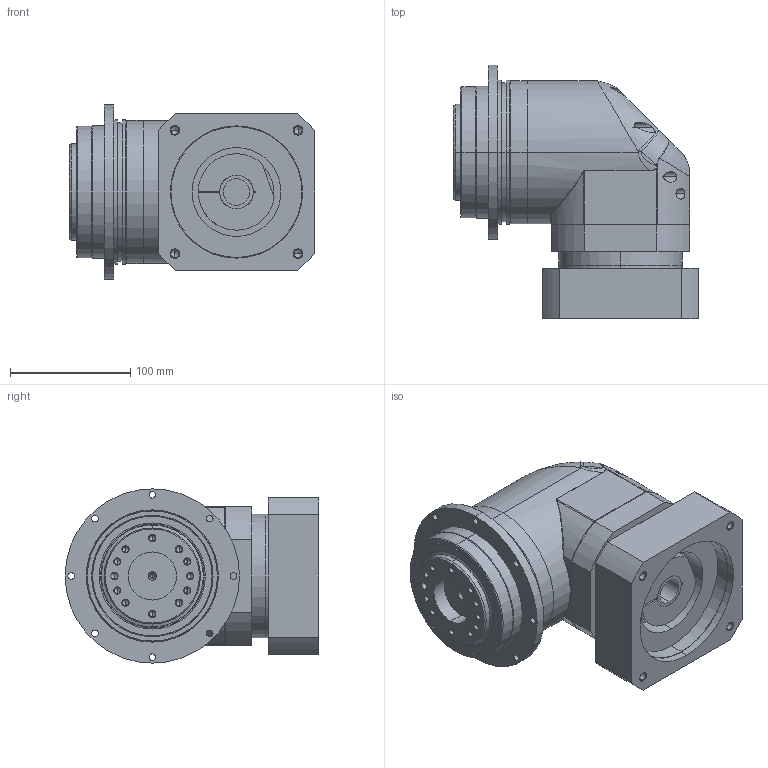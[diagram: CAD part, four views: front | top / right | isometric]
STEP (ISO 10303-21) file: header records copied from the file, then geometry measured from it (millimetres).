
FILE_DESCRIPTION (( 'STEP AP203' ), '1' );
FILE_NAME ('ADR110-L1-22-110-145-M8.STEP', '2024-04-15T09:05:24', ( '' ), ( '' ), 'SwSTEP 2.0', 'SolidWorks 2015', '' );
FILE_SCHEMA (( 'CONFIG_CONTROL_DESIGN' ));
Length unit declared in the file: millimetre
Products named in the file (1): ADR110-L1-22-110-145-M8
Bounding box: 204 x 211 x 145 mm (x, y, z)
Volume: 2226241.6 mm3; surface area: 331693.6 mm2
Topology: 8 solids, 9 shells, 547 faces, 1287 edges, 758 vertices
Faces by surface type: cylinder 213, cone 148, plane 88, bspline 88, torus 10
Entity records: 24296 total; most frequent: CARTESIAN_POINT 12444, ORIENTED_EDGE 2462, DIRECTION 2362, EDGE_CURVE 1231, AXIS2_PLACEMENT_3D 966, VERTEX_POINT 758, EDGE_LOOP 647, FACE_OUTER_BOUND 547
